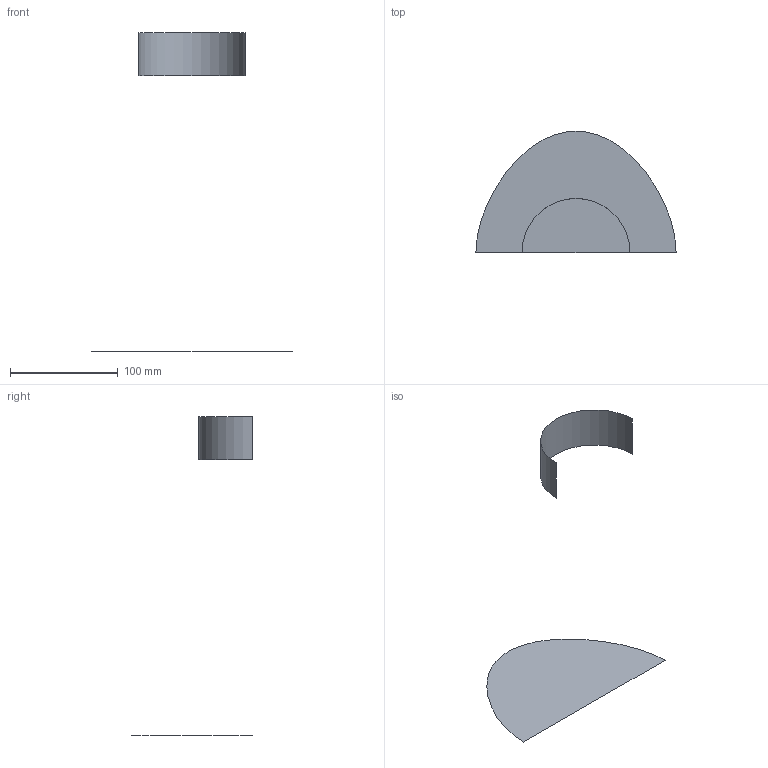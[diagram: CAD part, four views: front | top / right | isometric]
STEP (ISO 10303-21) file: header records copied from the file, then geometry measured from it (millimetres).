
FILE_DESCRIPTION(('CATIA V5 STEP Exchange'),'2;1');
FILE_NAME('C:\_Andres\UNIVERSIDAD\IQS\ASIGNATURAS\DAO\Controles\1617\c1\1original\Beteta_Pozo_Ej00-base_v3.stp','2017-02-06T16:27:31+00:00',('none'),('none'),'CATIA Version 5-6 Release 2014 SP1 HF18','CATIA V5 STEP AP203','none');
FILE_SCHEMA(('CONFIG_CONTROL_DESIGN'));
Length unit declared in the file: millimetre
Products named in the file (1): Beteta_Pozo_Ej00-base_v3
Bounding box: 186 x 113 x 296 mm (x, y, z)
Surface area: 22128.6 mm2 (no closed solid volume)
Topology: 0 solids, 2 shells, 2 faces, 16 edges, 26 vertices
Faces by surface type: cylinder 1, plane 1
Entity records: 230 total; most frequent: CARTESIAN_POINT 78, DIRECTION 16, COMPOSITE_CURVE_SEGMENT 9, TRIMMED_CURVE 9, AXIS2_PLACEMENT_3D 8, COMPOSITE_CURVE 7, ORIENTED_EDGE 7, EDGE_CURVE 7
